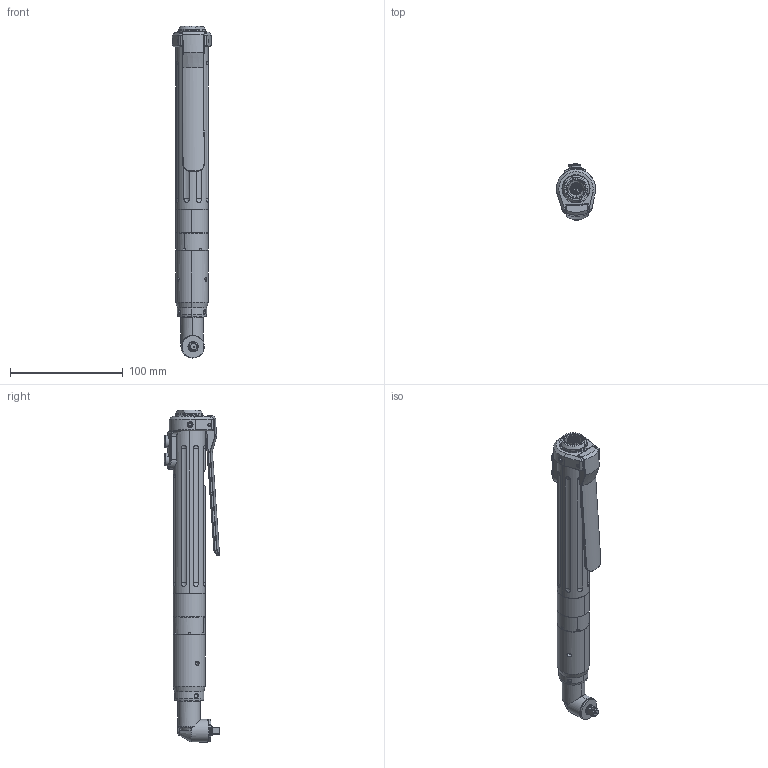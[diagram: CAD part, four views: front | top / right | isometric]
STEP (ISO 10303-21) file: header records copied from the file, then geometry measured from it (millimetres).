
FILE_DESCRIPTION (( 'STEP AP214' ), '1' );
FILE_NAME ('ASG-SD2500-20RP-J.STEP', '2021-01-19T20:48:52', ( '' ), ( '' ), 'SwSTEP 2.0', 'SolidWorks 2020', '' );
FILE_SCHEMA (( 'AUTOMOTIVE_DESIGN' ));
Length unit declared in the file: millimetre
Products named in the file (1): ASG-SD2500-20RP-J
Bounding box: 35.11 x 49.61 x 294.59 mm (x, y, z)
Surface area: 42389.7 mm2 (no closed solid volume)
Topology: 0 solids, 23 shells, 426 faces, 1237 edges, 825 vertices
Faces by surface type: cylinder 180, plane 84, torus 61, cone 48, bspline 45, sphere 8
Entity records: 28788 total; most frequent: CARTESIAN_POINT 13428, ORIENTED_EDGE 2177, DIRECTION 2122, EDGE_CURVE 1237, AXIS2_PLACEMENT_3D 886, VERTEX_POINT 825, CIRCLE 504, EDGE_LOOP 493
